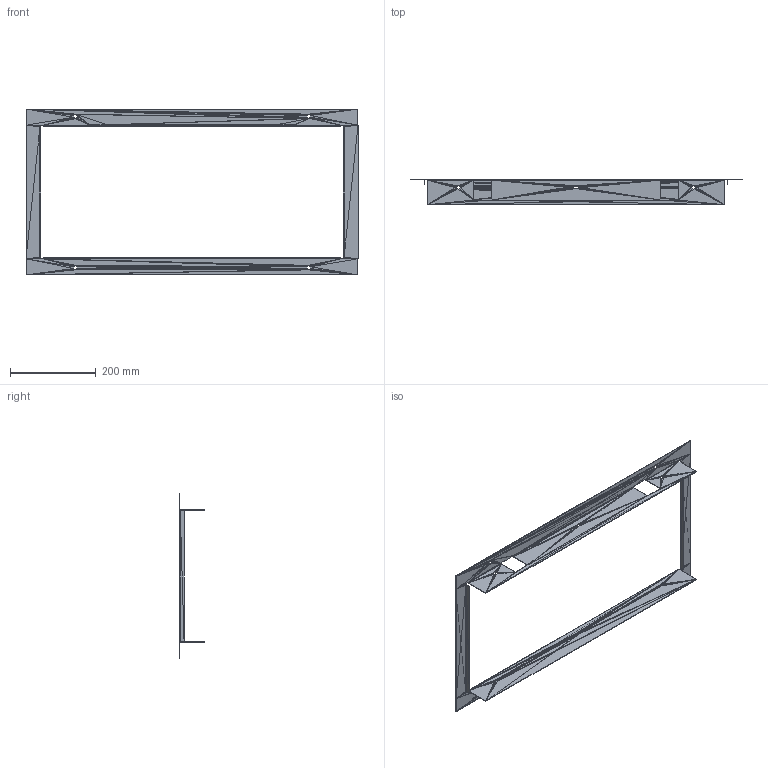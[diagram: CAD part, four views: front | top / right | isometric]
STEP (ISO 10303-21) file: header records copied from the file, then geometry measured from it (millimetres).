
FILE_DESCRIPTION((''),'2;1');
FILE_NAME('004318', '2025-07-24T05:27:24', (''), (''), 'ImageToStl.com STEP Converter','', '');
FILE_SCHEMA(('AUTOMOTIVE_DESIGN_CC2'));
Length unit declared in the file: metre
Products named in the file (1): product0
Bounding box: 775 x 60 x 387 mm (x, y, z)
Surface area: 337222.2 mm2 (no closed solid volume)
Topology: 0 solids, 920 shells, 920 faces, 2760 edges, 444 vertices
Faces by surface type: plane 920
Entity records: 21156 total; most frequent: DIRECTION 4602, ORIENTED_EDGE 2760, EDGE_CURVE 2760, LINE 2760, VECTOR 2760, AXIS2_PLACEMENT_3D 921, FACE_SURFACE 920, PLANE 920
